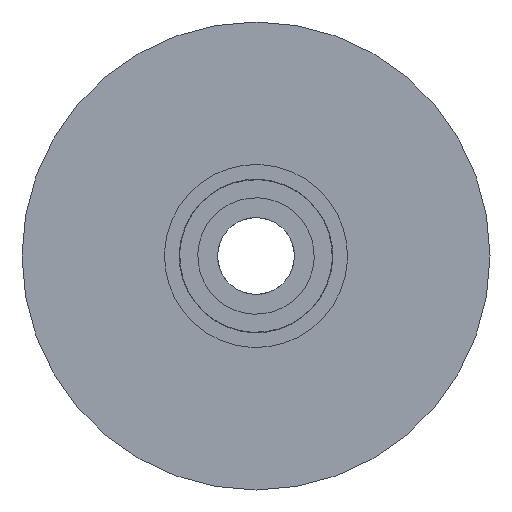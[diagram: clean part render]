
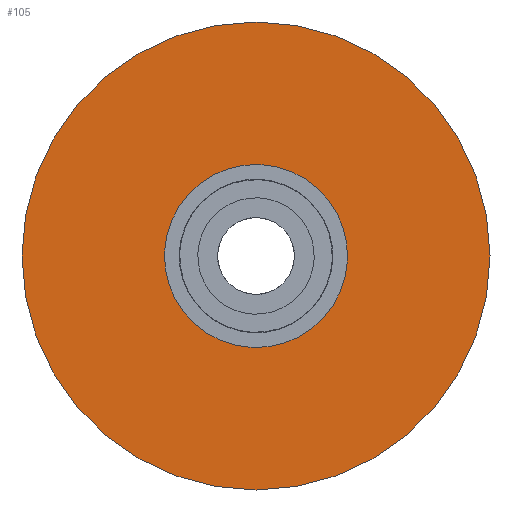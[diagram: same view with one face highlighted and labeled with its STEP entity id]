
A CAD part, left-side view. The second image highlights one B-rep face of the part: STEP entity #105.
In plain terms, the highlighted planar face has unit normal (-1, 0, 0).
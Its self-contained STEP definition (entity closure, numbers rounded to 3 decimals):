
#73 = EDGE_CURVE ( 'NONE', #590, #590, #119, .T. ) ;
#75 = EDGE_CURVE ( 'NONE', #594, #594, #121, .T. ) ;
#105 = ADVANCED_FACE ( 'NONE', ( #778, #210 ), #548, .F. ) ;
#119 = CIRCLE ( 'NONE', #428, 19.05 ) ;
#121 = CIRCLE ( 'NONE', #421, 3.125 ) ;
#210 = FACE_OUTER_BOUND ( 'NONE', #304, .T. ) ;
#212 = AXIS2_PLACEMENT_3D ( 'NONE', #549, #550, #551 ) ;
#253 = ORIENTED_EDGE ( 'NONE', *, *, #75, .F. ) ;
#281 = ORIENTED_EDGE ( 'NONE', *, *, #73, .F. ) ;
#304 = EDGE_LOOP ( 'NONE', ( #281 ) ) ;
#305 = EDGE_LOOP ( 'NONE', ( #253 ) ) ;
#358 = CARTESIAN_POINT ( 'NONE',  ( 0., 0., 0. ) ) ;
#359 = DIRECTION ( 'NONE',  ( 1., 0., 0. ) ) ;
#360 = DIRECTION ( 'NONE',  ( 0., 0., -1. ) ) ;
#364 = CARTESIAN_POINT ( 'NONE',  ( 0., 0., 0. ) ) ;
#365 = DIRECTION ( 'NONE',  ( -1., 0., 0. ) ) ;
#366 = DIRECTION ( 'NONE',  ( 0., 0., 1. ) ) ;
#421 = AXIS2_PLACEMENT_3D ( 'NONE', #364, #365, #366 ) ;
#428 = AXIS2_PLACEMENT_3D ( 'NONE', #358, #359, #360 ) ;
#548 = PLANE ( 'NONE',  #212 ) ;
#549 = CARTESIAN_POINT ( 'NONE',  ( 0., 0., 0. ) ) ;
#550 = DIRECTION ( 'NONE',  ( 1., 0., 0. ) ) ;
#551 = DIRECTION ( 'NONE',  ( 0., 0., -1. ) ) ;
#590 = VERTEX_POINT ( 'NONE', #591 ) ;
#591 = CARTESIAN_POINT ( 'NONE',  ( 0., 0., -19.05 ) ) ;
#594 = VERTEX_POINT ( 'NONE', #595 ) ;
#595 = CARTESIAN_POINT ( 'NONE',  ( 0., 0., 3.125 ) ) ;
#778 = FACE_BOUND ( 'NONE', #305, .T. ) ;
